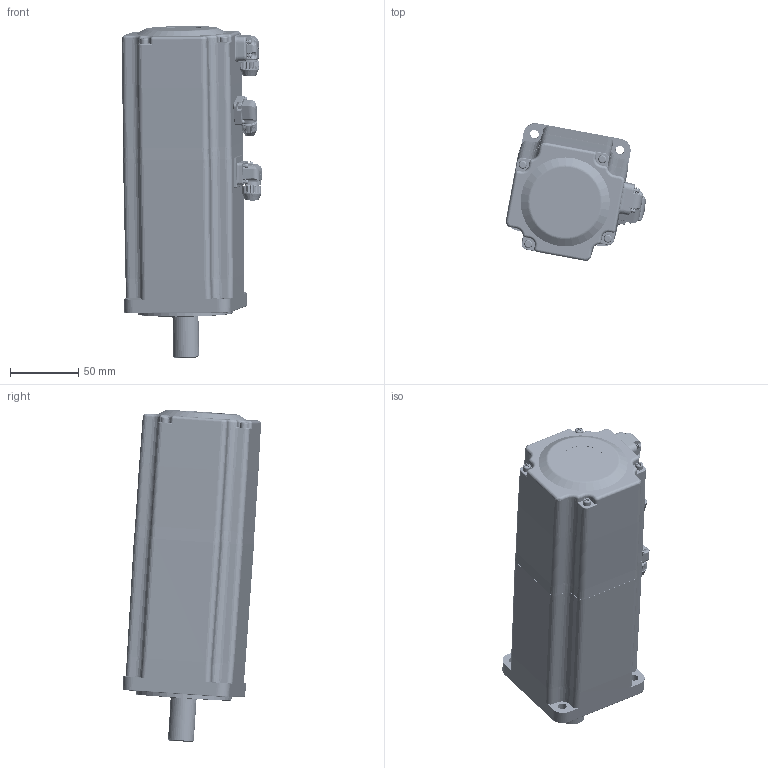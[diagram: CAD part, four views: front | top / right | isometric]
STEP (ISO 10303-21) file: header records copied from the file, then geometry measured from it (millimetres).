
FILE_DESCRIPTION((''),'2;1');
FILE_NAME('80-1000W-1','2017-05-26T',('Administrator'),(''),'PRO/ENGINEER BY PARAMETRIC TECHNOLOGY CORPORATION, 2010280','PRO/ENGINEER BY PARAMETRIC TECHNOLOGY CORPORATION, 2010280','');
FILE_SCHEMA(('CONFIG_CONTROL_DESIGN'));
Products named in the file (1): 80-1000W-1
Bounding box: 102.41 x 101.17 x 242.88 mm (x, y, z)
Volume: 666847.8 mm3; surface area: 188511.3 mm2
Topology: 50 solids, 89 shells, 9414 faces, 23777 edges, 14346 vertices
Faces by surface type: plane 5170, cylinder 1795, bspline 1205, cone 623, torus 274, sphere 199, extrusion 131, revolution 17
Entity records: 348454 total; most frequent: CARTESIAN_POINT 135581, ORIENTED_EDGE 46515, DIRECTION 39349, EDGE_CURVE 23559, VECTOR 14776, LINE 14645, VERTEX_POINT 14346, AXIS2_PLACEMENT_3D 12278
